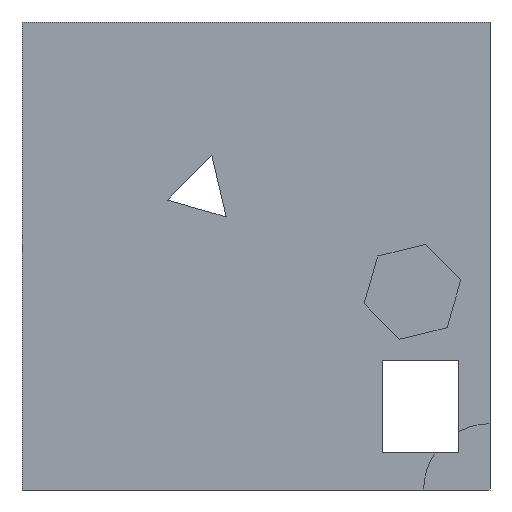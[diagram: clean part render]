
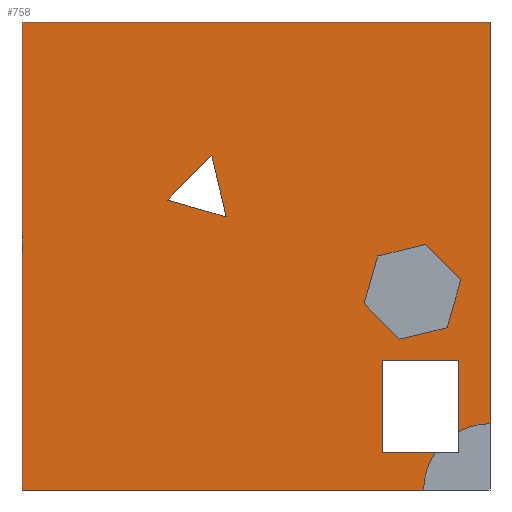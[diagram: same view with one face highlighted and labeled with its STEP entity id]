
A CAD part, left-side view. The second image highlights one B-rep face of the part: STEP entity #758.
In plain terms, the highlighted planar face has unit normal (-1, 0, 0).
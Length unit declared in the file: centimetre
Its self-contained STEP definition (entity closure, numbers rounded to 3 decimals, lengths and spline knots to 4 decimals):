
#7 = EDGE_CURVE ( 'NONE', #454, #1348, #865, .T. ) ;
#13 = ORIENTED_EDGE ( 'NONE', *, *, #373, .T. ) ;
#15 = CARTESIAN_POINT ( 'NONE',  ( 0., 689.6669, 619.5745 ) ) ;
#29 = ORIENTED_EDGE ( 'NONE', *, *, #532, .T. ) ;
#37 = CARTESIAN_POINT ( 'NONE',  ( 0., 230.7332, 79.1924 ) ) ;
#44 = DIRECTION ( 'NONE',  ( 0., -0.274, 0.962 ) ) ;
#50 = ORIENTED_EDGE ( 'NONE', *, *, #1243, .T. ) ;
#53 = CARTESIAN_POINT ( 'NONE',  ( 0., 594.428, 714.8135 ) ) ;
#63 = CARTESIAN_POINT ( 'NONE',  ( 0., 137.6598, 524.7697 ) ) ;
#65 = LINE ( 'NONE', #498, #850 ) ;
#70 = DIRECTION ( 'NONE',  ( 0., 0., -1. ) ) ;
#74 = CARTESIAN_POINT ( 'NONE',  ( 0., 62.2859, 449.3958 ) ) ;
#80 = LINE ( 'NONE', #297, #960 ) ;
#81 = EDGE_CURVE ( 'NONE', #867, #334, #1210, .T. ) ;
#105 = ORIENTED_EDGE ( 'NONE', *, *, #138, .F. ) ;
#117 = VERTEX_POINT ( 'NONE', #1010 ) ;
#119 = EDGE_CURVE ( 'NONE', #809, #1043, #369, .T. ) ;
#129 = CARTESIAN_POINT ( 'NONE',  ( 0., 137.6598, 524.7697 ) ) ;
#133 = CARTESIAN_POINT ( 'NONE',  ( 0., 563.8279, 583.5732 ) ) ;
#138 = EDGE_CURVE ( 'NONE', #117, #834, #158, .T. ) ;
#145 = VECTOR ( 'NONE', #1319, 100. ) ;
#158 = LINE ( 'NONE', #1247, #697 ) ;
#177 = VERTEX_POINT ( 'NONE', #1358 ) ;
#179 = CARTESIAN_POINT ( 'NONE',  ( 0., 1000., 1000. ) ) ;
#207 = VECTOR ( 'NONE', #683, 100. ) ;
#225 = VECTOR ( 'NONE', #232, 100. ) ;
#232 = DIRECTION ( 'NONE',  ( 0., 0., 1. ) ) ;
#247 = CARTESIAN_POINT ( 'NONE',  ( 0., 0., 1000. ) ) ;
#259 = CARTESIAN_POINT ( 'NONE',  ( 0., 62.2859, 449.3958 ) ) ;
#271 = CARTESIAN_POINT ( 'NONE',  ( 0., 239.86, 500.027 ) ) ;
#281 = FACE_BOUND ( 'NONE', #621, .T. ) ;
#297 = CARTESIAN_POINT ( 'NONE',  ( 0., 594.428, 714.8135 ) ) ;
#309 = LINE ( 'NONE', #453, #783 ) ;
#317 = ORIENTED_EDGE ( 'NONE', *, *, #1023, .F. ) ;
#325 = DIRECTION ( 'NONE',  ( 0., -0.707, -0.707 ) ) ;
#334 = VERTEX_POINT ( 'NONE', #659 ) ;
#336 = VERTEX_POINT ( 'NONE', #1092 ) ;
#339 = CARTESIAN_POINT ( 'NONE',  ( 0., 1000., 1000. ) ) ;
#340 = LINE ( 'NONE', #674, #663 ) ;
#356 = CARTESIAN_POINT ( 'NONE',  ( 0., 67.5017, 124.6595 ) ) ;
#361 = DIRECTION ( 'NONE',  ( 0., -0.972, 0.235 ) ) ;
#364 = EDGE_CURVE ( 'NONE', #1255, #1043, #602, .T. ) ;
#368 = CARTESIAN_POINT ( 'NONE',  ( 0., 91.5178, 346.8733 ) ) ;
#369 = LINE ( 'NONE', #893, #1334 ) ;
#373 = EDGE_CURVE ( 'NONE', #1302, #454, #309, .T. ) ;
#389 = ORIENTED_EDGE ( 'NONE', *, *, #705, .F. ) ;
#416 = LINE ( 'NONE', #826, #565 ) ;
#419 = ORIENTED_EDGE ( 'NONE', *, *, #364, .F. ) ;
#432 = AXIS2_PLACEMENT_3D ( 'NONE', #179, #600, #70 ) ;
#453 = CARTESIAN_POINT ( 'NONE',  ( 0., 563.8279, 583.5732 ) ) ;
#454 = VERTEX_POINT ( 'NONE', #133 ) ;
#463 = VECTOR ( 'NONE', #1190, 100. ) ;
#487 = ORIENTED_EDGE ( 'NONE', *, *, #1353, .F. ) ;
#495 = ORIENTED_EDGE ( 'NONE', *, *, #500, .F. ) ;
#497 = CARTESIAN_POINT ( 'NONE',  ( 0., 67.5017, 79.1924 ) ) ;
#498 = CARTESIAN_POINT ( 'NONE',  ( 0., 239.86, 500.027 ) ) ;
#500 = EDGE_CURVE ( 'NONE', #661, #1188, #1240, .T. ) ;
#504 = LINE ( 'NONE', #368, #704 ) ;
#511 = DIRECTION ( 'NONE',  ( 0., -0.707, 0.707 ) ) ;
#512 = ORIENTED_EDGE ( 'NONE', *, *, #842, .T. ) ;
#517 = DIRECTION ( 'NONE',  ( 0., 0., -1. ) ) ;
#532 = EDGE_CURVE ( 'NONE', #1414, #775, #416, .T. ) ;
#538 = CARTESIAN_POINT ( 'NONE',  ( 0., 141.762, 0. ) ) ;
#553 = CARTESIAN_POINT ( 'NONE',  ( 0., 67.5017, 276.8589 ) ) ;
#565 = VECTOR ( 'NONE', #517, 100. ) ;
#567 = LINE ( 'NONE', #553, #1087 ) ;
#600 = DIRECTION ( 'NONE',  ( 1., 0., 0. ) ) ;
#602 = CIRCLE ( 'NONE', #1399, 141.762 ) ;
#603 = LINE ( 'NONE', #497, #1169 ) ;
#620 = EDGE_CURVE ( 'NONE', #1348, #1302, #80, .T. ) ;
#621 = EDGE_LOOP ( 'NONE', ( #1300, #13, #1242 ) ) ;
#632 = VECTOR ( 'NONE', #1085, 100. ) ;
#636 = DIRECTION ( 'NONE',  ( -1., 0., 0. ) ) ;
#652 = DIRECTION ( 'NONE',  ( -1., 0., 0. ) ) ;
#654 = ORIENTED_EDGE ( 'NONE', *, *, #910, .T. ) ;
#659 = CARTESIAN_POINT ( 'NONE',  ( 0., 230.7332, 276.8589 ) ) ;
#661 = VERTEX_POINT ( 'NONE', #74 ) ;
#663 = VECTOR ( 'NONE', #325, 100. ) ;
#670 = EDGE_CURVE ( 'NONE', #911, #1195, #65, .T. ) ;
#674 = CARTESIAN_POINT ( 'NONE',  ( 0., 269.0919, 397.5045 ) ) ;
#683 = DIRECTION ( 'NONE',  ( 0., 0.707, 0.707 ) ) ;
#688 = DIRECTION ( 'NONE',  ( 0., 1., 0. ) ) ;
#697 = VECTOR ( 'NONE', #1102, 100. ) ;
#701 = CARTESIAN_POINT ( 'NONE',  ( 0., 91.5178, 346.8733 ) ) ;
#704 = VECTOR ( 'NONE', #44, 100. ) ;
#705 = EDGE_CURVE ( 'NONE', #336, #775, #1209, .T. ) ;
#712 = FACE_BOUND ( 'NONE', #898, .T. ) ;
#717 = EDGE_LOOP ( 'NONE', ( #1180, #419, #654, #1002, #512, #29, #389, #788, #105, #50 ) ) ;
#738 = DIRECTION ( 'NONE',  ( 0., -1., 0. ) ) ;
#747 = CARTESIAN_POINT ( 'NONE',  ( 0., 67.5017, 276.8589 ) ) ;
#753 = CARTESIAN_POINT ( 'NONE',  ( 0., 0., 0. ) ) ;
#757 = LINE ( 'NONE', #339, #145 ) ;
#758 = ADVANCED_FACE ( 'NONE', ( #281, #712, #1034 ), #1153, .F. ) ;
#775 = VERTEX_POINT ( 'NONE', #356 ) ;
#783 = VECTOR ( 'NONE', #1314, 100. ) ;
#788 = ORIENTED_EDGE ( 'NONE', *, *, #1066, .F. ) ;
#809 = VERTEX_POINT ( 'NONE', #1109 ) ;
#817 = DIRECTION ( 'NONE',  ( 0., 0.972, -0.235 ) ) ;
#826 = CARTESIAN_POINT ( 'NONE',  ( 0., 67.5017, 79.1924 ) ) ;
#834 = VERTEX_POINT ( 'NONE', #247 ) ;
#842 = EDGE_CURVE ( 'NONE', #334, #1414, #567, .T. ) ;
#846 = ORIENTED_EDGE ( 'NONE', *, *, #1013, .F. ) ;
#850 = VECTOR ( 'NONE', #921, 100. ) ;
#854 = ORIENTED_EDGE ( 'NONE', *, *, #670, .F. ) ;
#865 = LINE ( 'NONE', #15, #632 ) ;
#867 = VERTEX_POINT ( 'NONE', #37 ) ;
#875 = CARTESIAN_POINT ( 'NONE',  ( 0., 230.7332, 79.1924 ) ) ;
#881 = VECTOR ( 'NONE', #817, 100. ) ;
#893 = CARTESIAN_POINT ( 'NONE',  ( 0., 1000., 0. ) ) ;
#898 = EDGE_LOOP ( 'NONE', ( #854, #317, #495, #846, #1050, #487 ) ) ;
#907 = LINE ( 'NONE', #928, #1344 ) ;
#910 = EDGE_CURVE ( 'NONE', #1255, #867, #603, .T. ) ;
#911 = VERTEX_POINT ( 'NONE', #271 ) ;
#921 = DIRECTION ( 'NONE',  ( 0., 0.274, -0.962 ) ) ;
#927 = CARTESIAN_POINT ( 'NONE',  ( 0., 0., 0. ) ) ;
#928 = CARTESIAN_POINT ( 'NONE',  ( 0., 193.718, 322.1306 ) ) ;
#953 = DIRECTION ( 'NONE',  ( 0., 0., 1. ) ) ;
#958 = LINE ( 'NONE', #1061, #463 ) ;
#960 = VECTOR ( 'NONE', #511, 100. ) ;
#1002 = ORIENTED_EDGE ( 'NONE', *, *, #81, .T. ) ;
#1003 = VERTEX_POINT ( 'NONE', #701 ) ;
#1010 = CARTESIAN_POINT ( 'NONE',  ( 0., 1000., 1000. ) ) ;
#1013 = EDGE_CURVE ( 'NONE', #1003, #661, #504, .T. ) ;
#1023 = EDGE_CURVE ( 'NONE', #1188, #911, #1364, .T. ) ;
#1034 = FACE_OUTER_BOUND ( 'NONE', #717, .T. ) ;
#1043 = VERTEX_POINT ( 'NONE', #538 ) ;
#1050 = ORIENTED_EDGE ( 'NONE', *, *, #1304, .F. ) ;
#1061 = CARTESIAN_POINT ( 'NONE',  ( 0., 0., 1000. ) ) ;
#1066 = EDGE_CURVE ( 'NONE', #834, #336, #958, .T. ) ;
#1085 = DIRECTION ( 'NONE',  ( 0., 0.961, 0.275 ) ) ;
#1087 = VECTOR ( 'NONE', #738, 100. ) ;
#1089 = CARTESIAN_POINT ( 'NONE',  ( 0., 269.0919, 397.5045 ) ) ;
#1092 = CARTESIAN_POINT ( 'NONE',  ( 0., 0., 141.762 ) ) ;
#1102 = DIRECTION ( 'NONE',  ( 0., -1., 0. ) ) ;
#1109 = CARTESIAN_POINT ( 'NONE',  ( 0., 1000., 0. ) ) ;
#1128 = DIRECTION ( 'NONE',  ( 0., -1., 0. ) ) ;
#1153 = PLANE ( 'NONE',  #432 ) ;
#1169 = VECTOR ( 'NONE', #688, 100. ) ;
#1180 = ORIENTED_EDGE ( 'NONE', *, *, #119, .T. ) ;
#1188 = VERTEX_POINT ( 'NONE', #129 ) ;
#1190 = DIRECTION ( 'NONE',  ( 0., 0., -1. ) ) ;
#1195 = VERTEX_POINT ( 'NONE', #1089 ) ;
#1199 = DIRECTION ( 'NONE',  ( 0., 0., 1. ) ) ;
#1209 = CIRCLE ( 'NONE', #1402, 141.762 ) ;
#1210 = LINE ( 'NONE', #875, #225 ) ;
#1216 = CARTESIAN_POINT ( 'NONE',  ( 0., 117.5798, 79.1924 ) ) ;
#1240 = LINE ( 'NONE', #259, #207 ) ;
#1242 = ORIENTED_EDGE ( 'NONE', *, *, #7, .T. ) ;
#1243 = EDGE_CURVE ( 'NONE', #117, #809, #757, .T. ) ;
#1247 = CARTESIAN_POINT ( 'NONE',  ( 0., 1000., 1000. ) ) ;
#1255 = VERTEX_POINT ( 'NONE', #1216 ) ;
#1300 = ORIENTED_EDGE ( 'NONE', *, *, #620, .T. ) ;
#1302 = VERTEX_POINT ( 'NONE', #53 ) ;
#1304 = EDGE_CURVE ( 'NONE', #177, #1003, #907, .T. ) ;
#1314 = DIRECTION ( 'NONE',  ( 0., -0.227, -0.974 ) ) ;
#1319 = DIRECTION ( 'NONE',  ( 0., 0., -1. ) ) ;
#1334 = VECTOR ( 'NONE', #1128, 100. ) ;
#1344 = VECTOR ( 'NONE', #361, 100. ) ;
#1348 = VERTEX_POINT ( 'NONE', #1424 ) ;
#1353 = EDGE_CURVE ( 'NONE', #1195, #177, #340, .T. ) ;
#1358 = CARTESIAN_POINT ( 'NONE',  ( 0., 193.718, 322.1306 ) ) ;
#1364 = LINE ( 'NONE', #63, #881 ) ;
#1399 = AXIS2_PLACEMENT_3D ( 'NONE', #753, #652, #953 ) ;
#1402 = AXIS2_PLACEMENT_3D ( 'NONE', #927, #636, #1199 ) ;
#1414 = VERTEX_POINT ( 'NONE', #747 ) ;
#1424 = CARTESIAN_POINT ( 'NONE',  ( 0., 689.6669, 619.5745 ) ) ;
